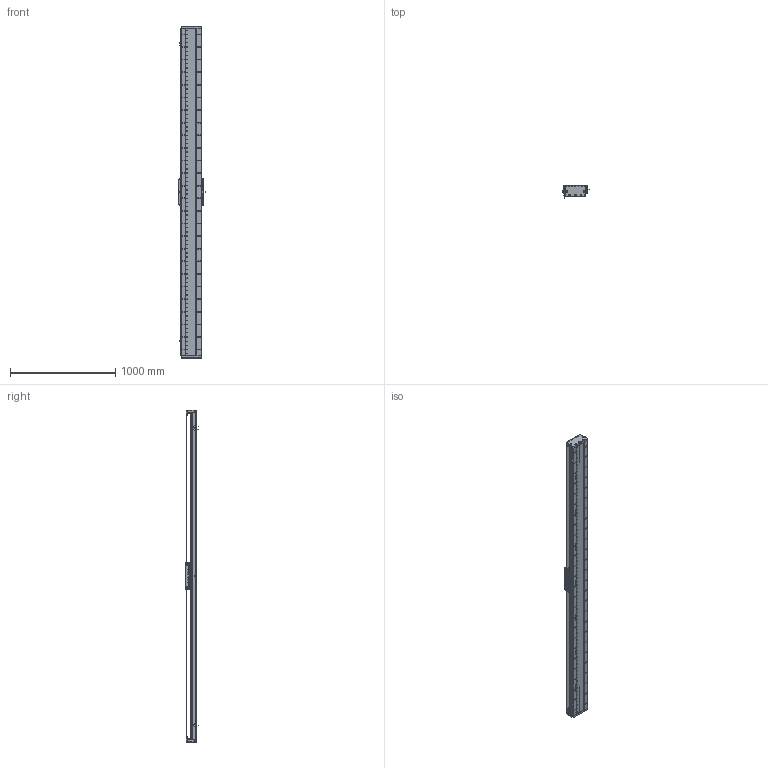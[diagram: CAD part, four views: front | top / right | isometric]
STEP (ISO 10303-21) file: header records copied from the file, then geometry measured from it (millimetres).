
FILE_DESCRIPTION (( 'STEP AP203' ), '1' );
FILE_NAME ('DA-C195-C3-T2820-C010-0.2 眻盄萇儂.STEP', '2025-08-15T01:29:42', ( '' ), ( '' ), 'SwSTEP 2.0', 'SolidWorks 2019', '' );
FILE_SCHEMA (( 'CONFIG_CONTROL_DESIGN' ));
Length unit declared in the file: millimetre
Products named in the file (15): DA165-GYP-00 光电感应片(默认); DA195詩湍裔啣; MS200 棠掑喜S315-T240; 葩璃 DA95-GT-T-00; DA195詩湍郪璃; IU-CU195-L-00 菁釱(L3120); DA-C195-C3-T2820-C010-0.2 眻盄萇儂; IU-CU195-L 菁釱絳寢; PM-T45ㄗ侂狟ㄘ; DA95-HXJ-00 遣喳砎蝶; CU195-C3賑輸-俋楷; DA195詩湍嶺輸; DA-C195-GD-DB-H-00 傷啣; LMT黍杅芛; DA195詩湍菜輸
Assembly tree (29 placements, depth 3):
  DA-C195-C3-T2820-C010-0.2 眻盄萇儂
    DA195詩湍郪璃
      DA195詩湍菜輸  x2
      DA195詩湍裔啣
      DA195詩湍嶺輸  x2
      DA95-HXJ-00 遣喳砎蝶  x8
      DA-C195-GD-DB-H-00 傷啣  x2
    IU-CU195-L 菁釱絳寢
      IU-CU195-L-00 菁釱(L3120)
      葩璃 DA95-GT-T-00  x4
    LMT黍杅芛
    MS200 棠掑喜S315-T240
    PM-T45ㄗ侂狟ㄘ  x3
    DA165-GYP-00 光电感应片(默认)
    CU195-C3賑輸-俋楷
Bounding box: 248 x 115.45 x 3160 mm (x, y, z)
Volume: 18149626.9 mm3; surface area: 5367987.3 mm2
Topology: 86 solids, 118 shells, 4544 faces, 12999 edges, 8225 vertices
Faces by surface type: cylinder 2570, plane 1372, cone 514, torus 52, sphere 36
Entity records: 150413 total; most frequent: CARTESIAN_POINT 42044, ORIENTED_EDGE 22914, DIRECTION 21662, EDGE_CURVE 11457, AXIS2_PLACEMENT_3D 8149, VERTEX_POINT 7427, LINE 5364, VECTOR 5364
